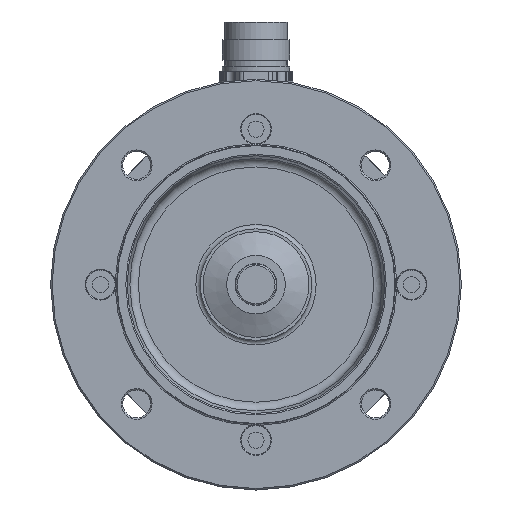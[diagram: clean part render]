
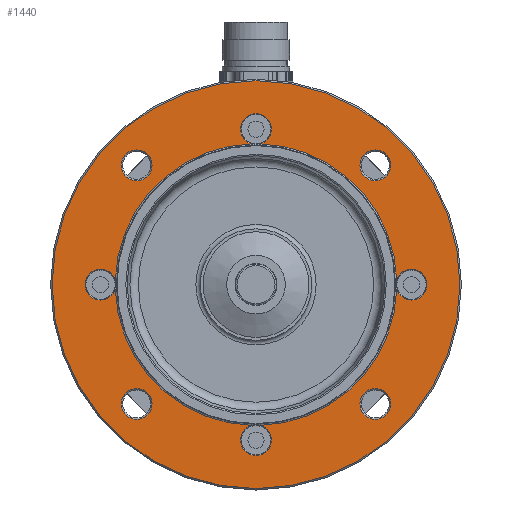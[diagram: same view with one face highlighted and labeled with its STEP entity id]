
A CAD part, front view. The second image highlights one B-rep face of the part: STEP entity #1440.
In plain terms, the highlighted planar face has unit normal (0, -1, 0).
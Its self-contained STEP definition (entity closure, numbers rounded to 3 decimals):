
#553=PLANE('',#7785);
#685=FACE_BOUND('',#2595,.T.);
#686=FACE_BOUND('',#2596,.T.);
#687=FACE_BOUND('',#2597,.T.);
#688=FACE_BOUND('',#2598,.T.);
#689=FACE_BOUND('',#2599,.T.);
#1440=ADVANCED_FACE('',(#2246,#685,#686,#687,#688,#689),#553,.T.);
#2246=FACE_OUTER_BOUND('',#2594,.T.);
#2594=EDGE_LOOP('',(#4373));
#2595=EDGE_LOOP('',(#4374,#4375,#4376,#4377,#4378,#4379,#4380,#4381));
#2596=EDGE_LOOP('',(#4382));
#2597=EDGE_LOOP('',(#4383));
#2598=EDGE_LOOP('',(#4384));
#2599=EDGE_LOOP('',(#4385));
#3686=CIRCLE('',#7772,69.5);
#3687=CIRCLE('',#7773,5.25);
#3688=CIRCLE('',#7774,48.);
#3689=CIRCLE('',#7775,5.25);
#3690=CIRCLE('',#7776,48.);
#3691=CIRCLE('',#7777,5.25);
#3692=CIRCLE('',#7778,48.);
#3693=CIRCLE('',#7779,5.25);
#3694=CIRCLE('',#7780,48.);
#3695=CIRCLE('',#7781,5.25);
#3696=CIRCLE('',#7782,5.25);
#3697=CIRCLE('',#7783,5.25);
#3698=CIRCLE('',#7784,5.25);
#4373=ORIENTED_EDGE('',*,*,#6710,.T.);
#4374=ORIENTED_EDGE('',*,*,#6711,.T.);
#4375=ORIENTED_EDGE('',*,*,#6712,.T.);
#4376=ORIENTED_EDGE('',*,*,#6713,.T.);
#4377=ORIENTED_EDGE('',*,*,#6714,.T.);
#4378=ORIENTED_EDGE('',*,*,#6715,.T.);
#4379=ORIENTED_EDGE('',*,*,#6716,.T.);
#4380=ORIENTED_EDGE('',*,*,#6717,.T.);
#4381=ORIENTED_EDGE('',*,*,#6718,.T.);
#4382=ORIENTED_EDGE('',*,*,#6719,.T.);
#4383=ORIENTED_EDGE('',*,*,#6720,.T.);
#4384=ORIENTED_EDGE('',*,*,#6721,.T.);
#4385=ORIENTED_EDGE('',*,*,#6722,.T.);
#5997=VERTEX_POINT('',#11624);
#5998=VERTEX_POINT('',#11626);
#5999=VERTEX_POINT('',#11627);
#6000=VERTEX_POINT('',#11629);
#6001=VERTEX_POINT('',#11631);
#6002=VERTEX_POINT('',#11633);
#6003=VERTEX_POINT('',#11635);
#6004=VERTEX_POINT('',#11637);
#6005=VERTEX_POINT('',#11639);
#6006=VERTEX_POINT('',#11642);
#6007=VERTEX_POINT('',#11644);
#6008=VERTEX_POINT('',#11646);
#6009=VERTEX_POINT('',#11648);
#6710=EDGE_CURVE('',#5997,#5997,#3686,.T.);
#6711=EDGE_CURVE('',#5998,#5999,#3687,.T.);
#6712=EDGE_CURVE('',#5999,#6000,#3688,.T.);
#6713=EDGE_CURVE('',#6000,#6001,#3689,.T.);
#6714=EDGE_CURVE('',#6001,#6002,#3690,.T.);
#6715=EDGE_CURVE('',#6002,#6003,#3691,.T.);
#6716=EDGE_CURVE('',#6003,#6004,#3692,.T.);
#6717=EDGE_CURVE('',#6004,#6005,#3693,.T.);
#6718=EDGE_CURVE('',#6005,#5998,#3694,.T.);
#6719=EDGE_CURVE('',#6006,#6006,#3695,.T.);
#6720=EDGE_CURVE('',#6007,#6007,#3696,.T.);
#6721=EDGE_CURVE('',#6008,#6008,#3697,.T.);
#6722=EDGE_CURVE('',#6009,#6009,#3698,.T.);
#7772=AXIS2_PLACEMENT_3D('',#11623,#9033,#9034);
#7773=AXIS2_PLACEMENT_3D('',#11625,#9035,#9036);
#7774=AXIS2_PLACEMENT_3D('',#11628,#9037,#9038);
#7775=AXIS2_PLACEMENT_3D('',#11630,#9039,#9040);
#7776=AXIS2_PLACEMENT_3D('',#11632,#9041,#9042);
#7777=AXIS2_PLACEMENT_3D('',#11634,#9043,#9044);
#7778=AXIS2_PLACEMENT_3D('',#11636,#9045,#9046);
#7779=AXIS2_PLACEMENT_3D('',#11638,#9047,#9048);
#7780=AXIS2_PLACEMENT_3D('',#11640,#9049,#9050);
#7781=AXIS2_PLACEMENT_3D('',#11641,#9051,#9052);
#7782=AXIS2_PLACEMENT_3D('',#11643,#9053,#9054);
#7783=AXIS2_PLACEMENT_3D('',#11645,#9055,#9056);
#7784=AXIS2_PLACEMENT_3D('',#11647,#9057,#9058);
#7785=AXIS2_PLACEMENT_3D('',#11649,#9059,#9060);
#9033=DIRECTION('',(0.,-1.,0.));
#9034=DIRECTION('',(0.,0.,-1.));
#9035=DIRECTION('',(0.,1.,0.));
#9036=DIRECTION('',(0.,0.,-1.));
#9037=DIRECTION('',(0.,1.,0.));
#9038=DIRECTION('',(0.,0.,-1.));
#9039=DIRECTION('',(0.,1.,0.));
#9040=DIRECTION('',(0.,0.,-1.));
#9041=DIRECTION('',(0.,1.,0.));
#9042=DIRECTION('',(0.,0.,-1.));
#9043=DIRECTION('',(0.,1.,0.));
#9044=DIRECTION('',(0.,0.,-1.));
#9045=DIRECTION('',(0.,1.,0.));
#9046=DIRECTION('',(0.,0.,-1.));
#9047=DIRECTION('',(0.,1.,0.));
#9048=DIRECTION('',(0.,0.,-1.));
#9049=DIRECTION('',(0.,1.,0.));
#9050=DIRECTION('',(0.,0.,-1.));
#9051=DIRECTION('',(0.,1.,0.));
#9052=DIRECTION('',(0.,0.,-1.));
#9053=DIRECTION('',(0.,1.,0.));
#9054=DIRECTION('',(0.,0.,-1.));
#9055=DIRECTION('',(0.,1.,0.));
#9056=DIRECTION('',(0.,0.,-1.));
#9057=DIRECTION('',(0.,1.,0.));
#9058=DIRECTION('',(0.,0.,-1.));
#9059=DIRECTION('',(0.,-1.,0.));
#9060=DIRECTION('',(0.,0.,-1.));
#11623=CARTESIAN_POINT('',(0.,0.,0.));
#11624=CARTESIAN_POINT('',(0.,0.,-69.5));
#11625=CARTESIAN_POINT('',(0.,0.,-53.));
#11626=CARTESIAN_POINT('',(1.523,0.,-47.976));
#11627=CARTESIAN_POINT('',(-1.523,0.,-47.976));
#11628=CARTESIAN_POINT('',(0.,0.,0.));
#11629=CARTESIAN_POINT('',(-47.976,0.,-1.523));
#11630=CARTESIAN_POINT('',(-53.,0.,0.));
#11631=CARTESIAN_POINT('',(-47.976,0.,1.523));
#11632=CARTESIAN_POINT('',(0.,0.,0.));
#11633=CARTESIAN_POINT('',(-1.523,0.,47.976));
#11634=CARTESIAN_POINT('',(0.,0.,53.));
#11635=CARTESIAN_POINT('',(1.523,0.,47.976));
#11636=CARTESIAN_POINT('',(0.,0.,0.));
#11637=CARTESIAN_POINT('',(47.976,0.,1.523));
#11638=CARTESIAN_POINT('',(53.,0.,0.));
#11639=CARTESIAN_POINT('',(47.976,0.,-1.523));
#11640=CARTESIAN_POINT('',(0.,0.,0.));
#11641=CARTESIAN_POINT('',(-40.659,0.,-40.659));
#11642=CARTESIAN_POINT('',(-40.659,0.,-45.909));
#11643=CARTESIAN_POINT('',(-40.659,0.,40.659));
#11644=CARTESIAN_POINT('',(-40.659,0.,35.409));
#11645=CARTESIAN_POINT('',(40.659,0.,-40.659));
#11646=CARTESIAN_POINT('',(40.659,0.,-45.909));
#11647=CARTESIAN_POINT('',(40.659,0.,40.659));
#11648=CARTESIAN_POINT('',(40.659,0.,35.409));
#11649=CARTESIAN_POINT('',(0.,0.,0.));
